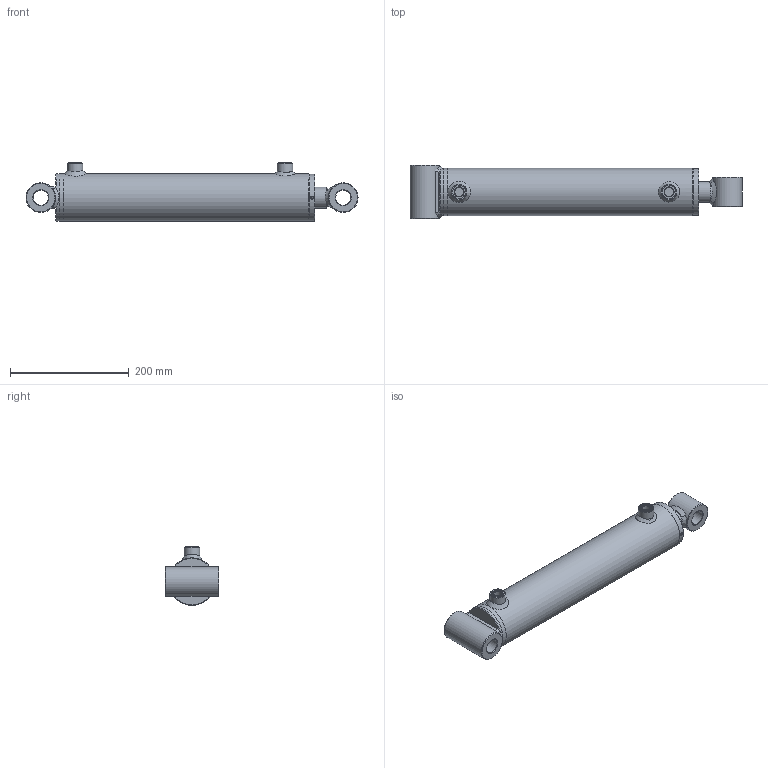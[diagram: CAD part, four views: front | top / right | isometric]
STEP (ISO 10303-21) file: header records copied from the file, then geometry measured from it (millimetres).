
FILE_DESCRIPTION( ( 'Unknown' ), '1' );
FILE_NAME( 'E:/LIBRERIA_3d/CILINDRI/HM2/HM24350300.stp', 'Unknown', ( 'Unknown' ), ( 'Unknown' ), 'PSStep 17.0.49', 'Unknown', ' ' );
FILE_SCHEMA( ( 'AUTOMOTIVE_DESIGN { 1 0 10303 214 1 1 1 1 }' ) );
Length unit declared in the file: millimetre
Products named in the file (26): CG08007035; STL4500300-oa6; Saldatura d'angolo 1-oa4; FTM4500300-oa5; CBSC220600; CT00070020; HM04350300; Saldatura con preparazione 1-oa2; Saldatura d'angolo 1-oa3; CF00070080; CBS0600000; APG0600000; CDA0002015; SBL3530300; Assem1; Saldatura d'angolo 1-oa0; Saldatura d'angolo 2-oa1; CB25050050; CB25050090
Assembly tree (18 placements, depth 4):
  Saldatura d'angolo 1-oa4
  Saldatura d'angolo 1-oa4
  Saldatura d'angolo 1-oa3
  Saldatura d'angolo 1-oa3
  Assem1
    CB25050050
    CB25050090
    HM04350300
      Saldatura con preparazione 1-oa2
      Saldatura con preparazione 1-oa2
      CF00070080
      CBS0600000
      APG0600000  x2
      CDA0002015
      SBL3530300
      CG08007035
        CG08007035
      CT00070020
        CT00070020
      STL4500300-oa6
        FTM4500300-oa5
        CBSC220600
Bounding box: 560 x 90 x 99 mm (x, y, z)
Volume: 1437735.5 mm3; surface area: 387777 mm2
Topology: 22 solids, 22 shells, 282 faces, 582 edges, 349 vertices
Faces by surface type: plane 74, bspline 72, cylinder 59, cone 40, torus 37
Full cylindrical faces by diameter (mm): 4.25 x1, 5 x2, 6 x2, 7 x2, 14.95 x2, 16 x2, 16.6 x2, 19.4 x1, 20 x5, 22 x2, 24.5 x1, 25.25 x2, 26 x2, 30 x1, 35 x4, 37 x1, 38 x1, 43.6 x1, 45 x1, 50 x3, 64.18 x2, 65 x1, 68.34 x2, 69.9 x1, 70 x1, 70.3 x1, 70.5 x1, 70.6 x1, 71 x1, 72 x3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
Entity records: 18454 total; most frequent: CARTESIAN_POINT 11557, DIRECTION 846, ORIENTED_EDGE 758, EDGE_LOOP 456, AXIS2_PLACEMENT_3D 405, EDGE_CURVE 379, FACE_OUTER_BOUND 374, VERTEX_POINT 298
